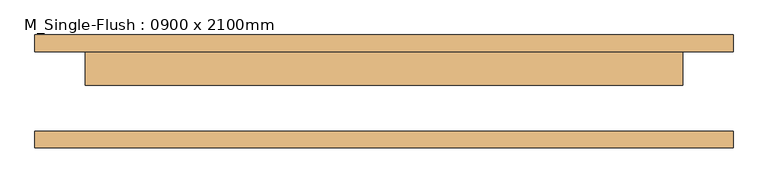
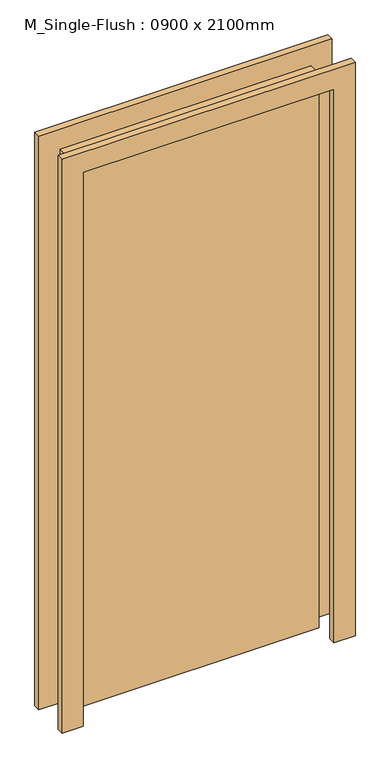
"""IFC4 building model written with IfcOpenShell, lengths in millimetres: door geometry, M_Single-Flush : 0900 x 2100mm."""

import ifcopenshell
import ifcopenshell.guid

model = None  # the IFC model being written
_history = None  # IfcOwnerHistory: only IFC2X3 demands one
_inside = {}  # id of a spatial element -> (the spatial element, [elements in it])
_under = {}  # id of a project, library or spatial element -> (it, [spatial elements below it])
_declared = {}  # id of a project -> (the project, [libraries it declares])
_typed = {}  # id of a type object -> (the type object, [elements of that type])
_made_of = {}  # id of a material, layer set ... -> (it, [elements and type objects made of it])


def new_model(schema):
    """Start an empty IFC model of exactly this schema.

    Asked for "IFC4X3", IfcOpenShell would pick the latest addendum, in which some entities
    have other attributes; the version numbers below select the first issue.
    IFC2X3 requires an IfcOwnerHistory on every rooted entity: one is made here for all.
    """
    global model, _history
    if schema == "IFC4X3":
        model = ifcopenshell.file(schema_version=(4, 3, 0, 0))
    else:
        model = ifcopenshell.file(schema=schema)
    _inside.clear()
    _under.clear()
    _declared.clear()
    _typed.clear()
    _made_of.clear()
    _history = None
    if model.schema == "IFC2X3":
        org = make("IfcOrganization", Name="unknown")
        user = make(
            "IfcPersonAndOrganization",
            ThePerson=make("IfcPerson", FamilyName="unknown"),
            TheOrganization=org,
        )
        app = make(
            "IfcApplication",
            ApplicationDeveloper=org,
            Version="unknown",
            ApplicationFullName="unknown",
            ApplicationIdentifier="unknown",
        )
        _history = make(
            "IfcOwnerHistory",
            OwningUser=user,
            OwningApplication=app,
            ChangeAction="ADDED",
            CreationDate=0,
        )
    return model


def make(cls, **values):
    """One entity of the class cls with the attributes given. An attribute that is None is left unset."""
    return model.create_entity(
        cls, **{name: value for name, value in values.items() if value is not None}
    )


def rooted(cls, **values):
    """An entity with a GlobalId (a new one), such as an element, a storey or a relation."""
    return make(cls, GlobalId=ifcopenshell.guid.new(), OwnerHistory=_history, **values)


def si_unit(unit_type, name, prefix=None):
    """IfcSIUnit, for example si_unit("LENGTHUNIT", "METRE", prefix="MILLI")."""
    return make("IfcSIUnit", UnitType=unit_type, Prefix=prefix, Name=name)


def assignment(units):
    """IfcUnitAssignment: the units of a project."""
    return None if units is None else make("IfcUnitAssignment", Units=units)


def point(xyz):
    """IfcCartesianPoint."""
    return None if xyz is None else make("IfcCartesianPoint", Coordinates=xyz)


def direction(xyz):
    """IfcDirection."""
    return None if xyz is None else make("IfcDirection", DirectionRatios=xyz)


def frame(location, z_axis=None, x_axis=None):
    """IfcAxis2Placement3D, a coordinate frame: its origin and axes. An axis left out is left unset."""
    return make(
        "IfcAxis2Placement3D",
        Location=point(location),
        Axis=direction(z_axis),
        RefDirection=direction(x_axis),
    )


def origin():
    """The frame at (0, 0, 0) with its axes left unset."""
    return frame((0.0, 0.0, 0.0))


def origin_with_axes():
    """The frame at (0, 0, 0) with the z axis (0, 0, 1) and the x axis (1, 0, 0) written out."""
    return frame((0.0, 0.0, 0.0), z_axis=(0.0, 0.0, 1.0), x_axis=(1.0, 0.0, 0.0))


def place(relative_to, where):
    """IfcLocalPlacement: puts the frame where relative to a parent placement (None: the world)."""
    return make(
        "IfcLocalPlacement", PlacementRelTo=relative_to, RelativePlacement=where
    )


def context(
    kind, dimensions, precision=None, world=None, true_north=None, identifier=None
):
    """IfcGeometricRepresentationContext, for example the 3D "Model" context."""
    return make(
        "IfcGeometricRepresentationContext",
        ContextIdentifier=identifier,
        ContextType=kind,
        CoordinateSpaceDimension=dimensions,
        Precision=precision,
        WorldCoordinateSystem=world,
        TrueNorth=true_north,
    )


def project(units=None, contexts=None):
    """IfcProject with its units and contexts."""
    return rooted(
        "IfcProject",
        Name="project",
        RepresentationContexts=contexts,
        UnitsInContext=assignment(units),
    )


def spatial(cls, under=None, at=None, **own):
    """A site, building, storey or space (cls), placed at a placement, below another one or the project."""
    s = rooted(cls, ObjectPlacement=at, **own)
    if under is not None:
        _under.setdefault(under.id(), (under, []))[1].append(s)
    return s


def polyline(points):
    """IfcPolyline through the points."""
    return make("IfcPolyline", Points=[point(p) for p in points])


def outline(outer, holes=None, kind="AREA"):
    """IfcArbitraryClosedProfileDef: a profile drawn as a closed curve; with holes, ...WithVoids."""
    if holes is None:
        return make("IfcArbitraryClosedProfileDef", ProfileType=kind, OuterCurve=outer)
    return make(
        "IfcArbitraryProfileDefWithVoids",
        ProfileType=kind,
        OuterCurve=outer,
        InnerCurves=holes,
    )


def extrude(swept, where, along, depth):
    """IfcExtrudedAreaSolid: the profile swept, set in the frame where, extruded along a direction by depth."""
    return make(
        "IfcExtrudedAreaSolid",
        SweptArea=swept,
        Position=where,
        ExtrudedDirection=direction(along),
        Depth=depth,
    )


def shape(context_of_items, identifier, shape_type, items):
    """IfcShapeRepresentation: the items that make up one representation, for example the "Body"."""
    return make(
        "IfcShapeRepresentation",
        ContextOfItems=context_of_items,
        RepresentationIdentifier=identifier,
        RepresentationType=shape_type,
        Items=items,
    )


def source(mapping_origin, context_of_items, identifier, shape_type, items):
    """IfcRepresentationMap: a shape defined once, which mapped items show again and again."""
    return make(
        "IfcRepresentationMap",
        MappingOrigin=mapping_origin,
        MappedRepresentation=shape(context_of_items, identifier, shape_type, items),
    )


def transform(
    local_origin,
    x_axis=None,
    y_axis=None,
    z_axis=None,
    scale=None,
    scale2=None,
    scale3=None,
    uniform=True,
):
    """IfcCartesianTransformationOperator3D, or its non-uniform kind. x_axis, y_axis, z_axis: its Axis1, 2, 3."""
    if uniform:
        return make(
            "IfcCartesianTransformationOperator3D",
            Axis1=direction(x_axis),
            Axis2=direction(y_axis),
            LocalOrigin=point(local_origin),
            Scale=scale,
            Axis3=direction(z_axis),
        )
    return make(
        "IfcCartesianTransformationOperator3DnonUniform",
        Axis1=direction(x_axis),
        Axis2=direction(y_axis),
        LocalOrigin=point(local_origin),
        Scale=scale,
        Axis3=direction(z_axis),
        Scale2=scale2,
        Scale3=scale3,
    )


def mapped(mapping_source, mapping_target):
    """IfcMappedItem: shows the shape of a source again, moved by a transform."""
    return make(
        "IfcMappedItem", MappingSource=mapping_source, MappingTarget=mapping_target
    )


def made_of(thing, what):
    """Note that an element or type object is made of a material, layer set ...; save() writes the relation."""
    if what is not None:
        _made_of.setdefault(what.id(), (what, []))[1].append(thing)
    return thing


def element(
    cls,
    number,
    at=None,
    inside=None,
    cuts=None,
    type_object=None,
    material=None,
    context=None,
    identifier="Body",
    shape_type=None,
    held_by="IfcProductDefinitionShape",
    body=None,
    shapes=None,
    **own,
):
    """One element of the class cls, such as IfcWall. Its Tag is "e" and its number.

    at: its placement. inside: the storey or other place that contains it. cuts: it is an
    opening in that element (IfcRelVoidsElement). A single representation is given by context,
    identifier, shape_type and body (its items); several are given by shapes. held_by: the class
    of the entity that holds the representations. save() writes the other relations.
    """
    e = rooted(cls, Tag="e%d" % number, ObjectPlacement=at, **own)
    if body is not None:
        shapes = [shape(context, identifier, shape_type, body)]
    if shapes is not None:
        e.Representation = make(held_by, Representations=shapes)
    if inside is not None:
        _inside.setdefault(inside.id(), (inside, []))[1].append(e)
    if cuts is not None:
        rooted(
            "IfcRelVoidsElement", RelatingBuildingElement=cuts, RelatedOpeningElement=e
        )
    if type_object is not None:
        _typed.setdefault(type_object.id(), (type_object, []))[1].append(e)
    return made_of(e, material)


def aggregate(whole, parts):
    """IfcRelAggregates: a whole, such as a stair, and the parts it consists of."""
    return rooted("IfcRelAggregates", RelatingObject=whole, RelatedObjects=parts)


def save(model, path):
    """Write the relations noted so far, then the file.

    IfcRelAggregates (storeys below a building ...), IfcRelContainedInSpatialStructure (elements
    in a storey), IfcRelDefinesByType, IfcRelAssociatesMaterial and IfcRelDeclares: one each for
    every whole, place, type object, material and project.
    """
    for whole, parts in _under.values():
        aggregate(whole, parts)
    for where, things in _inside.values():
        rooted(
            "IfcRelContainedInSpatialStructure",
            RelatedElements=things,
            RelatingStructure=where,
        )
    for kind, things in _typed.values():
        rooted("IfcRelDefinesByType", RelatedObjects=things, RelatingType=kind)
    for what, things in _made_of.values():
        rooted("IfcRelAssociatesMaterial", RelatedObjects=things, RelatingMaterial=what)
    for by, libraries in _declared.values():
        rooted("IfcRelDeclares", RelatingContext=by, RelatedDefinitions=libraries)
    model.write(path)


def m_single_flush_0900_x_2100mm_0846cce0(model_context):
    return source(origin(), model_context, "Body", "SweptSolid", [
        extrude(outline(polyline([(450.0, 9.0), (-450.0, 9.0), (-450.0, 60.0), (450.0, 60.0), (450.0, 9.0)])), origin_with_axes(), (0.0, 0.0, 1.0), 2100.0),
        extrude(outline(polyline([(2176.0, -526.0), (0.0, -526.0), (0.0, -450.0), (2100.0, -450.0), (2100.0, 450.0), (0.0, 450.0), (0.0, 526.0), (2176.0, 526.0), (2176.0, -526.0)])), frame((0.0, 60.0, 0.0), z_axis=(0.0, 1.0, 0.0), x_axis=(0.0, 0.0, 1.0)), (0.0, 0.0, 1.0), 25.0),
        extrude(outline(polyline([(2176.0, 526.0), (2176.0, -526.0), (0.0, -526.0), (0.0, -450.0), (2100.0, -450.0), (2100.0, 450.0), (0.0, 450.0), (0.0, 526.0), (2176.0, 526.0)])), frame((0.0, -85.0, 0.0), z_axis=(0.0, 1.0, 0.0), x_axis=(0.0, 0.0, 1.0)), (0.0, 0.0, 1.0), 25.0),
    ])


if __name__ == "__main__":
    model = new_model("IFC4")
    model_context = context("Model", 3, world=origin())
    ifc_project = project(units=[si_unit("LENGTHUNIT", "METRE", prefix="MILLI")], contexts=[model_context])
    site = spatial("IfcSite", under=ifc_project)
    building = spatial("IfcBuilding", under=site)
    placement = place(None, origin())
    m_single_flush_0900_x_2100mm_shape = m_single_flush_0900_x_2100mm_0846cce0(model_context)
    element("IfcDoor", 1, ObjectType="M_Single-Flush : 0900 x 2100mm", at=placement, inside=building, context=model_context, shape_type="MappedRepresentation", body=[
        mapped(m_single_flush_0900_x_2100mm_shape, transform((0.0, 0.0, 0.0), x_axis=(1.0, 0.0, 0.0), y_axis=(0.0, 1.0, 0.0), z_axis=(0.0, 0.0, 1.0))),
    ])
    save(model, "model.ifc")
